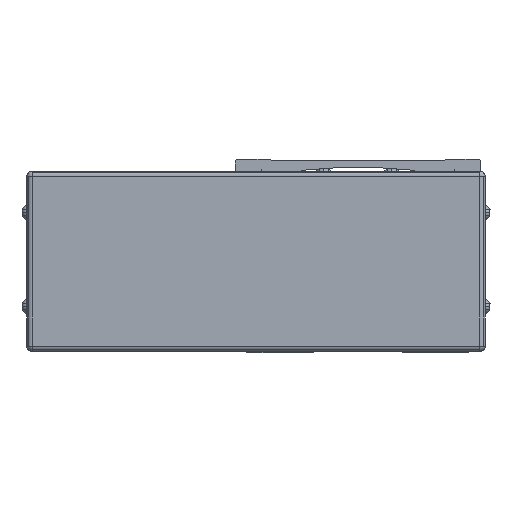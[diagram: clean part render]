
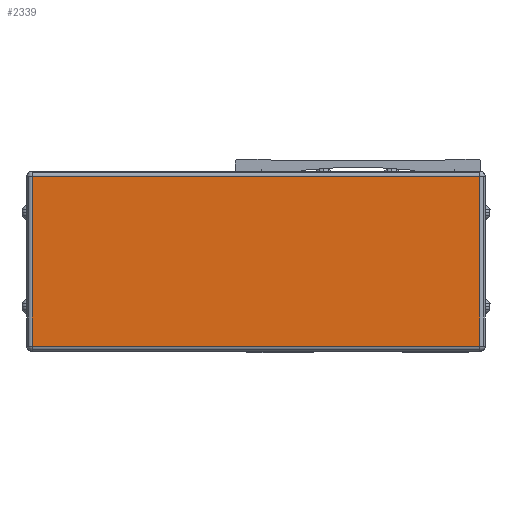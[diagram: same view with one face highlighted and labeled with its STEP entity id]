
A CAD part, front view. The second image highlights one B-rep face of the part: STEP entity #2339.
In plain terms, the highlighted planar face has unit normal (0, -1, 0).
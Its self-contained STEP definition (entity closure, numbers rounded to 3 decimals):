
#2339=ADVANCED_FACE('',(#6510),#6511,.F.);
#6510=FACE_OUTER_BOUND('',#12978,.T.);
#6511=PLANE('',#12979);
#12978=EDGE_LOOP('',(#21045,#21046,#21047,#21048));
#12979=AXIS2_PLACEMENT_3D('',#21049,#21050,#21051);
#21045=ORIENTED_EDGE('',*,*,#39221,.T.);
#21046=ORIENTED_EDGE('',*,*,#39222,.T.);
#21047=ORIENTED_EDGE('',*,*,#39223,.T.);
#21048=ORIENTED_EDGE('',*,*,#39224,.T.);
#21049=CARTESIAN_POINT('',(-39.,-388.778,-42.5));
#21050=DIRECTION('',(0.0,1.0,-0.0));
#21051=DIRECTION('',(-1.0,0.0,0.0));
#39221=EDGE_CURVE('',#46763,#46764,#46765,.T.);
#39222=EDGE_CURVE('',#46764,#46766,#46767,.T.);
#39223=EDGE_CURVE('',#46766,#46768,#46769,.T.);
#39224=EDGE_CURVE('',#46768,#46763,#46770,.T.);
#46763=VERTEX_POINT('',#57680);
#46764=VERTEX_POINT('',#57681);
#46765=LINE('',#57682,#57683);
#46766=VERTEX_POINT('',#57684);
#46767=LINE('',#57685,#57686);
#46768=VERTEX_POINT('',#57687);
#46769=LINE('',#57688,#57689);
#46770=LINE('',#57690,#57691);
#57680=CARTESIAN_POINT('',(-124.7,-388.778,-40.5));
#57681=CARTESIAN_POINT('',(46.7,-388.778,-40.5));
#57682=CARTESIAN_POINT('',(-39.,-388.778,-40.5));
#57683=VECTOR('',#73290,10.0);
#57684=CARTESIAN_POINT('',(46.7,-388.778,24.5));
#57685=CARTESIAN_POINT('',(46.7,-388.778,-42.5));
#57686=VECTOR('',#73291,10.0);
#57687=CARTESIAN_POINT('',(-124.7,-388.778,24.5));
#57688=CARTESIAN_POINT('',(-39.,-388.778,24.5));
#57689=VECTOR('',#73292,10.0);
#57690=CARTESIAN_POINT('',(-124.7,-388.778,-42.5));
#57691=VECTOR('',#73293,10.0);
#73290=DIRECTION('',(1.0,0.0,0.0));
#73291=DIRECTION('',(0.0,0.0,1.0));
#73292=DIRECTION('',(-1.0,0.0,0.0));
#73293=DIRECTION('',(-0.0,0.0,-1.0));
